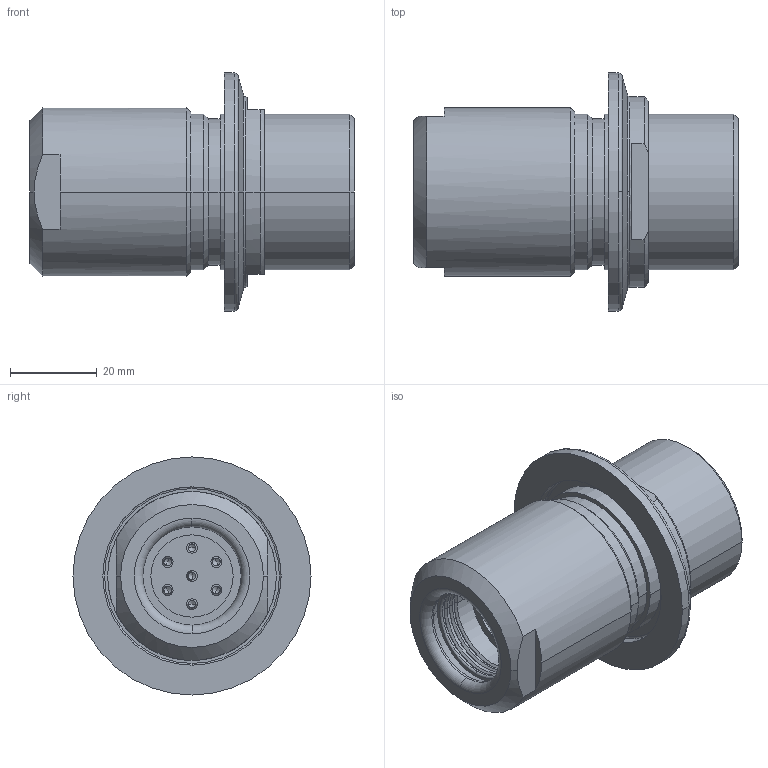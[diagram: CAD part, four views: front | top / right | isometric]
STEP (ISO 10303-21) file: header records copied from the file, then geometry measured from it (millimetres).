
FILE_DESCRIPTION((''),'2;1');
FILE_NAME('N:\Transfer\Berger Martin\Leybold\C13\210325.stp','2005-02-09T11:01:44',('PESO'),(''),'Autodesk Inventor 9','Autodesk Inventor 9','');
FILE_SCHEMA(('AUTOMOTIVE_DESIGN { 1 0 10303 214 1 1 1 1 }'));
Length unit declared in the file: millimetre
Products named in the file (1): 210325
Bounding box: 75 x 55 x 55 mm (x, y, z)
Volume: 61155.1 mm3; surface area: 22883.7 mm2
Topology: 1 solids, 1 shells, 230 faces, 531 edges, 307 vertices
Faces by surface type: cylinder 92, cone 58, plane 42, bspline 32, torus 6
Entity records: 6877 total; most frequent: CARTESIAN_POINT 1709, DIRECTION 1184, ORIENTED_EDGE 1006, EDGE_CURVE 503, AXIS2_PLACEMENT_3D 490, VERTEX_POINT 307, CIRCLE 270, EDGE_LOOP 262
